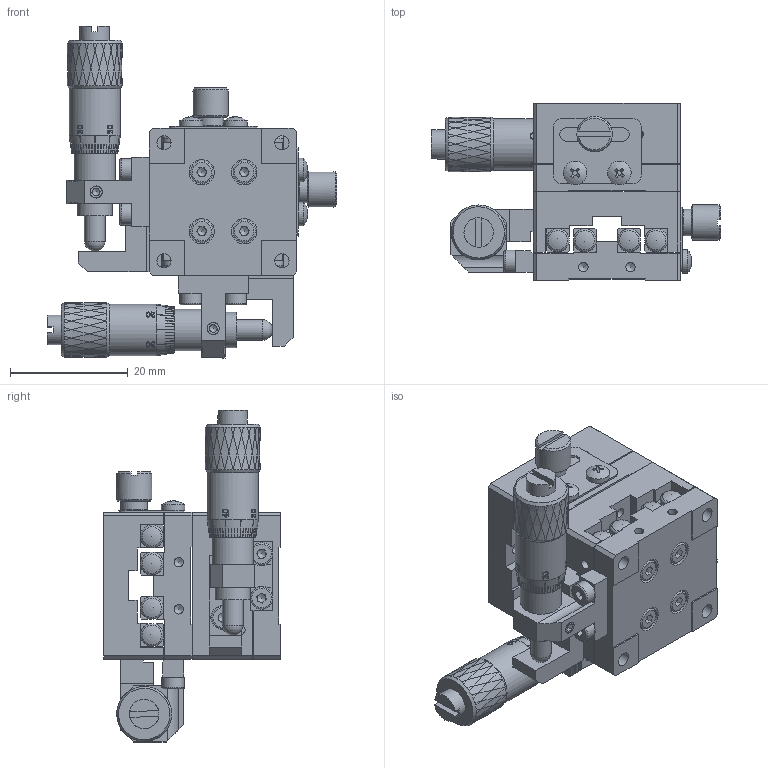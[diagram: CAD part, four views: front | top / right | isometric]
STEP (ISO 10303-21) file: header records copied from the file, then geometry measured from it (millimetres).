
FILE_DESCRIPTION (( 'STEP AP203' ), '1' );
FILE_NAME ('BPB25.STEP', '2024-07-23T08:02:12', ( 'Windows User' ), ( 'P R C' ), 'SwSTEP 2.0', 'SolidWorks 2024', '' );
FILE_SCHEMA (( 'CONFIG_CONTROL_DESIGN' ));
Products named in the file (1): BPB25
Bounding box: 49.1 x 30 x 56.3 mm (x, y, z)
Volume: 20603.9 mm3; surface area: 23774 mm2
Topology: 54 solids, 54 shells, 2330 faces, 5520 edges, 3516 vertices
Faces by surface type: plane 920, bspline 590, cylinder 488, cone 270, torus 58, sphere 4
Full cylindrical faces by diameter (mm): 1.6 x50, 1.65 x16, 2 x30, 2.05 x2, 2.2 x8, 2.4 x24, 2.5 x6, 3 x16, 3.5 x4, 3.8 x24, 3.9 x16, 4 x16, 4.3 x16, 4.5 x2, 5 x4, 6 x6, 7 x4, 8.7 x2
Entity records: 90523 total; most frequent: CARTESIAN_POINT 44715, ORIENTED_EDGE 9896, DIRECTION 7308, EDGE_CURVE 4948, VERTEX_POINT 3382, EDGE_LOOP 3134, AXIS2_PLACEMENT_3D 2821, FACE_OUTER_BOUND 2622
